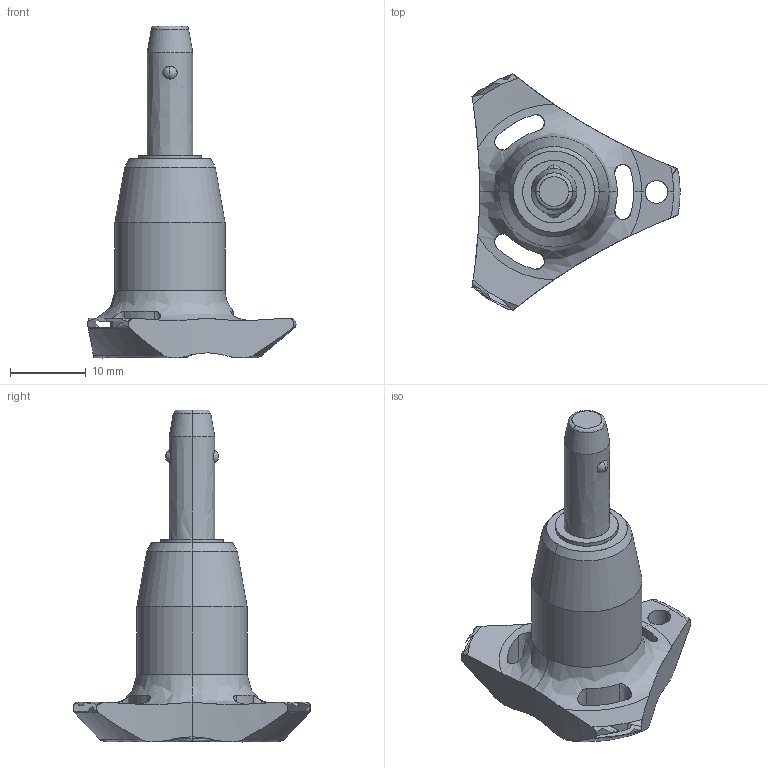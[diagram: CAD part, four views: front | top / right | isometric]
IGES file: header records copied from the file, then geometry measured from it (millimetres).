
Start section: SolidWorks IGES file using analytic representation for surfaces
Global section: file name: C:\Users\ianosborn\Desktop\QR1714_v2\QR1714_v2_20251112_IGES\QR1714.M06-010-S.igs; native system: SolidWorks 2019; preprocessor: SolidWorks 2019; author: IanOsborn; date: 251112.095737; units: millimetre
Bounding box: 27.4 x 31.31 x 43.7 mm (x, y, z)
Surface area: 2741.4 mm2 (no closed solid volume)
Topology: 0 solids, 0 shells, 66 faces, 1251 edges, 1232 vertices
Faces by surface type: revolution 50, bspline 16
